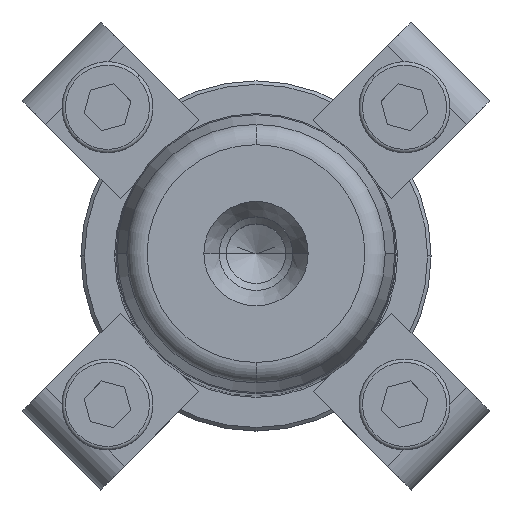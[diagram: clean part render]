
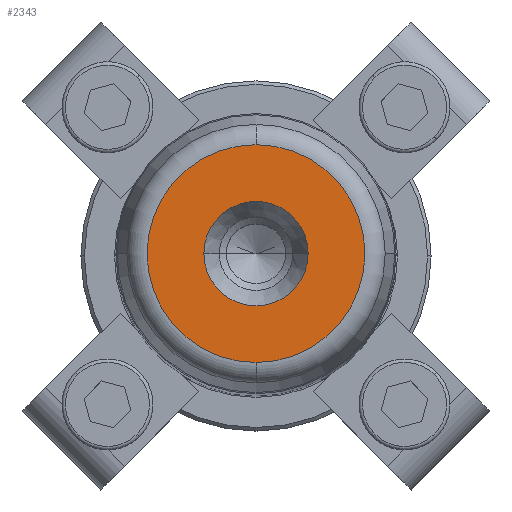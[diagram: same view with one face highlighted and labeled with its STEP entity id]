
A CAD part, top view. The second image highlights one B-rep face of the part: STEP entity #2343.
In plain terms, the highlighted planar face has unit normal (0, 0, 1).
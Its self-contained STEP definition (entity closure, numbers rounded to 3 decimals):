
#431=CARTESIAN_POINT('',(7.45,0.,200.0));
#432=VERTEX_POINT('',#431);
#439=CARTESIAN_POINT('',(-7.45,0.,200.0));
#440=VERTEX_POINT('',#439);
#441=CARTESIAN_POINT('',(0.0,0.,200.0));
#442=DIRECTION('',(0.0,0.0,1.0));
#443=DIRECTION('',(1.0,0.0,0.0));
#444=AXIS2_PLACEMENT_3D('',#441,#442,#443);
#445=CIRCLE('',#444,7.45);
#446=EDGE_CURVE('',#432,#440,#445,.T.);
#463=CARTESIAN_POINT('',(0.0,-15.554,200.));
#464=VERTEX_POINT('',#463);
#474=CARTESIAN_POINT('',(0.,15.554,200.0));
#475=VERTEX_POINT('',#474);
#476=CARTESIAN_POINT('',(0.0,0.,200.0));
#477=DIRECTION('',(0.0,0.0,1.0));
#478=DIRECTION('',(1.0,0.0,0.0));
#479=AXIS2_PLACEMENT_3D('',#476,#477,#478);
#480=CIRCLE('',#479,15.554);
#481=EDGE_CURVE('',#475,#464,#480,.T.);
#2304=CARTESIAN_POINT('',(15.554,0.,200.));
#2305=VERTEX_POINT('',#2304);
#2306=CARTESIAN_POINT('',(0.0,0.,200.0));
#2307=DIRECTION('',(0.0,0.0,1.0));
#2308=DIRECTION('',(1.0,0.0,0.0));
#2309=AXIS2_PLACEMENT_3D('',#2306,#2307,#2308);
#2310=CIRCLE('',#2309,15.554);
#2311=EDGE_CURVE('',#2305,#475,#2310,.T.);
#2313=CARTESIAN_POINT('',(0.0,0.,200.0));
#2314=DIRECTION('',(0.0,0.0,1.0));
#2315=DIRECTION('',(1.0,0.0,0.0));
#2316=AXIS2_PLACEMENT_3D('',#2313,#2314,#2315);
#2317=CIRCLE('',#2316,15.554);
#2318=EDGE_CURVE('',#464,#2305,#2317,.T.);
#2323=CARTESIAN_POINT('',(11.502,0.,200.0));
#2324=DIRECTION('',(0.0,0.0,1.0));
#2325=DIRECTION('',(0.0,-1.0,0.0));
#2326=AXIS2_PLACEMENT_3D('',#2323,#2324,#2325);
#2327=PLANE('',#2326);
#2328=ORIENTED_EDGE('',*,*,#2311,.T.);
#2329=ORIENTED_EDGE('',*,*,#481,.T.);
#2330=ORIENTED_EDGE('',*,*,#2318,.T.);
#2331=EDGE_LOOP('',(#2328,#2329,#2330));
#2332=FACE_OUTER_BOUND('',#2331,.T.);
#2333=ORIENTED_EDGE('',*,*,#446,.F.);
#2334=CARTESIAN_POINT('',(0.0,0.,200.0));
#2335=DIRECTION('',(0.0,0.0,1.0));
#2336=DIRECTION('',(1.0,0.0,0.0));
#2337=AXIS2_PLACEMENT_3D('',#2334,#2335,#2336);
#2338=CIRCLE('',#2337,7.45);
#2339=EDGE_CURVE('',#440,#432,#2338,.T.);
#2340=ORIENTED_EDGE('',*,*,#2339,.F.);
#2341=EDGE_LOOP('',(#2333,#2340));
#2342=FACE_BOUND('',#2341,.T.);
#2343=ADVANCED_FACE('',(#2332,#2342),#2327,.T.);
